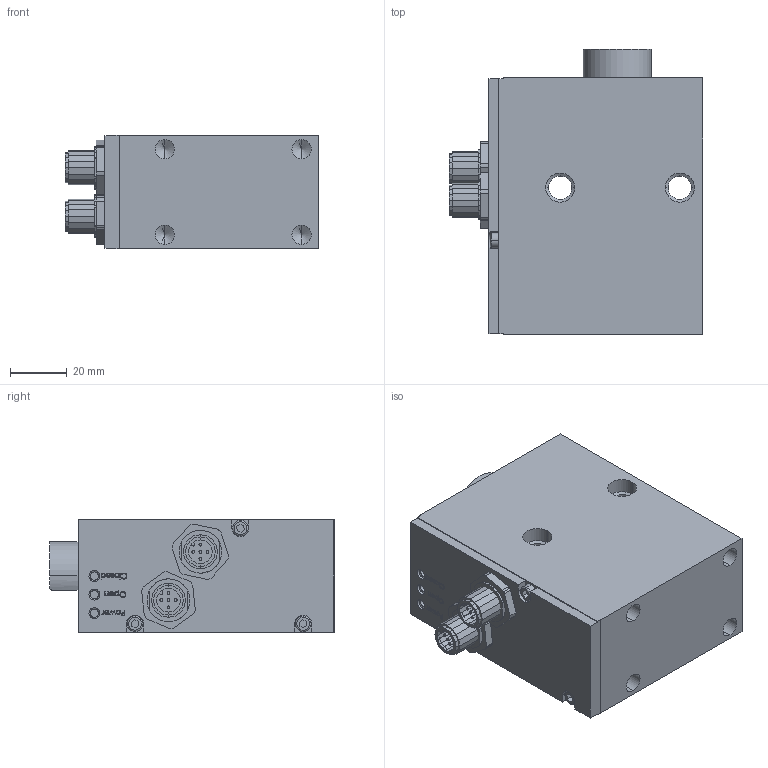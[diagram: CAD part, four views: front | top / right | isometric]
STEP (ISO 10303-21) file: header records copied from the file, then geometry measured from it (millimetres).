
FILE_DESCRIPTION (( 'STEP AP203' ), '1' );
FILE_NAME ('ELUR-65-10-5-R_Vereinzeler_ohne_Dämpfung~1.STEP', '2020-12-01T14:45:12', ( '' ), ( '' ), 'SwSTEP 2.0', 'SolidWorks 2019', '' );
FILE_SCHEMA (( 'CONFIG_CONTROL_DESIGN' ));
Length unit declared in the file: millimetre
Products named in the file (1): ELUR-65-10-5-R_Vereinzeler_ohne_Dämpfung~1
Bounding box: 88.9 x 100 x 40 mm (x, y, z)
Volume: 269107 mm3; surface area: 37368.5 mm2
Topology: 23 solids, 23 shells, 659 faces, 1683 edges, 1104 vertices
Faces by surface type: plane 412, bspline 119, cylinder 100, cone 22, torus 6
Entity records: 25448 total; most frequent: CARTESIAN_POINT 10080, ORIENTED_EDGE 3350, DIRECTION 2727, EDGE_CURVE 1675, VECTOR 1225, LINE 1225, VERTEX_POINT 1104, AXIS2_PLACEMENT_3D 751
